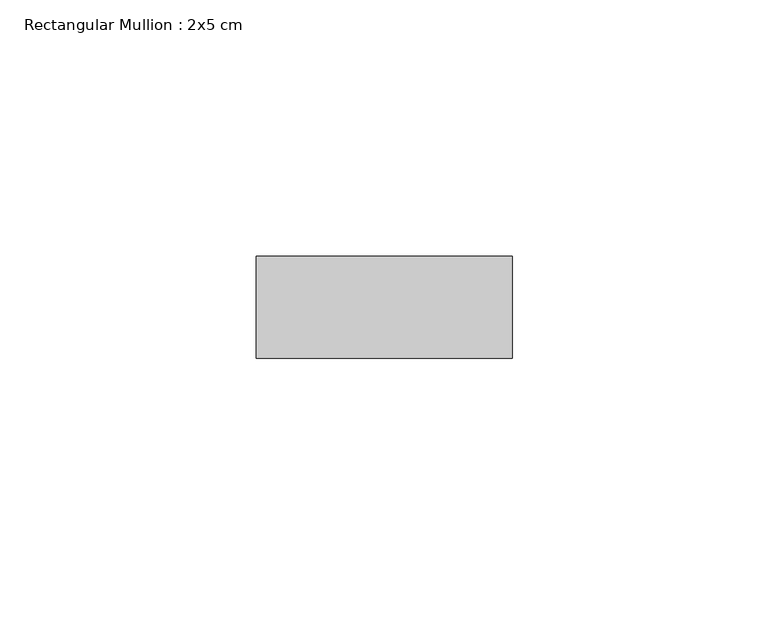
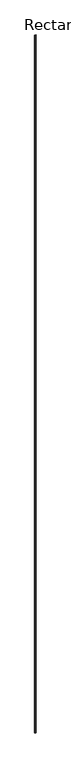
"""IFC4 building model written with IfcOpenShell, lengths in millimetres: member geometry, Rectangular Mullion : 2x5 cm."""

from ifc_helpers import new_model, si_unit, frame, origin, place, context, project, spatial, polyline, outline, extrude, source, transform, mapped, element, save


def rectangular_mullion_2x5_cm_08035588(model_context):
    return source(origin(), model_context, "Body", "SweptSolid", [
        extrude(outline(polyline([(50.0, 20.0), (50.0, 0.0), (0.0, 0.0), (0.0, 20.0), (50.0, 20.0)])), frame((0.0, 0.0, -31718.2726705), z_axis=(0.0, 0.0, 1.0), x_axis=(1.0, 0.0, 0.0)), (0.0, 0.0, 1.0), 31718.2726705),
    ])


if __name__ == "__main__":
    model = new_model("IFC4")
    model_context = context("Model", 3, world=origin())
    ifc_project = project(units=[si_unit("LENGTHUNIT", "METRE", prefix="MILLI")], contexts=[model_context])
    site = spatial("IfcSite", under=ifc_project)
    building = spatial("IfcBuilding", under=site)
    placement = place(None, origin())
    rectangular_mullion_2x5_cm_shape = rectangular_mullion_2x5_cm_08035588(model_context)
    element("IfcMember", 1, ObjectType="Rectangular Mullion : 2x5 cm", at=placement, inside=building, context=model_context, shape_type="MappedRepresentation", body=[
        mapped(rectangular_mullion_2x5_cm_shape, transform((0.0, 0.0, 0.0), x_axis=(1.0, 0.0, 0.0), y_axis=(0.0, 1.0, 0.0), z_axis=(0.0, 0.0, 1.0))),
    ])
    save(model, "model.ifc")
